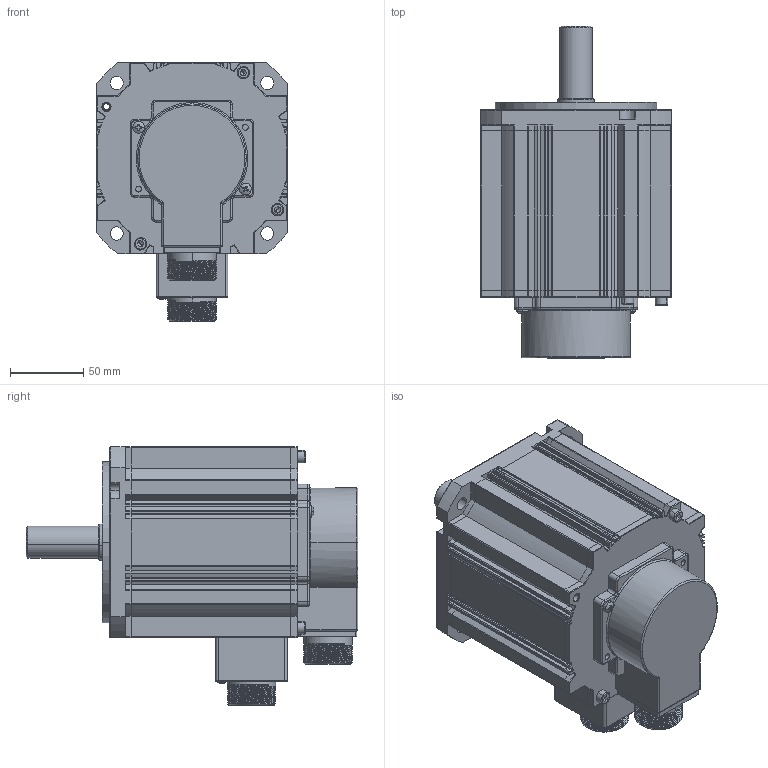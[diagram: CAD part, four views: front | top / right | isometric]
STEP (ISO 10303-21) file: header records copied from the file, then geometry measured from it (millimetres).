
FILE_DESCRIPTION (( 'STEP AP203' ), '1' );
FILE_NAME ('WF130ST-M095520-3D.STEP', '2021-07-26T09:16:03', ( '' ), ( '' ), 'SwSTEP 2.0', 'SolidWorks 2018', '' );
FILE_SCHEMA (( 'CONFIG_CONTROL_DESIGN' ));
Length unit declared in the file: millimetre
Products named in the file (16): 盓傅啣; 脣釱1; 瑤脣裔; 蛌赽軞傖; 粣; WF130ST-M095520-3D; 綴傷裔; 瑤脣窒煦; deep groove ball bearings gb_Rolling bearings 6205 GB 276-94; cross recessed pan head screws gb_GB_CROSS_SCREWS_TYPE1 M3X12-12  H type-N; hexagon socket head cap screws gb_GB_FASTENER_SCREWS_HSHCS M5X20-N; cross recessed pan head screws gb_GB_CROSS_SCREWS_TYPE1 M4X12-12  H type-N; deep groove ball bearings gb_Rolling bearings 6204 GB 276-94; 晤鎢欶裔; jike; ヶ傷裔
Assembly tree (22 placements, depth 3):
  WF130ST-M095520-3D
    jike
    瑤脣窒煦
      瑤脣裔
      脣釱1
      盓傅啣
    ヶ傷裔
    綴傷裔
    晤鎢欶裔
    脣釱1
    hexagon socket head cap screws gb_GB_FASTENER_SCREWS_HSHCS M5X20-N  x4
    cross recessed pan head screws gb_GB_CROSS_SCREWS_TYPE1 M4X12-12  H type-N  x2
    cross recessed pan head screws gb_GB_CROSS_SCREWS_TYPE1 M3X12-12  H type-N
    蛌赽軞傖
      粣
      deep groove ball bearings gb_Rolling bearings 6205 GB 276-94  x2
      deep groove ball bearings gb_Rolling bearings 6204 GB 276-94  x2
Bounding box: 130 x 226 x 176 mm (x, y, z)
Volume: 856643.3 mm3; surface area: 359130.6 mm2
Topology: 20 solids, 20 shells, 2358 faces, 6862 edges, 4370 vertices
Faces by surface type: cylinder 955, plane 611, torus 486, sphere 148, bspline 116, cone 42
Entity records: 73785 total; most frequent: CARTESIAN_POINT 23769, ORIENTED_EDGE 10402, DIRECTION 10068, EDGE_CURVE 5201, AXIS2_PLACEMENT_3D 4034, VERTEX_POINT 3275, CIRCLE 2168, EDGE_LOOP 2100
